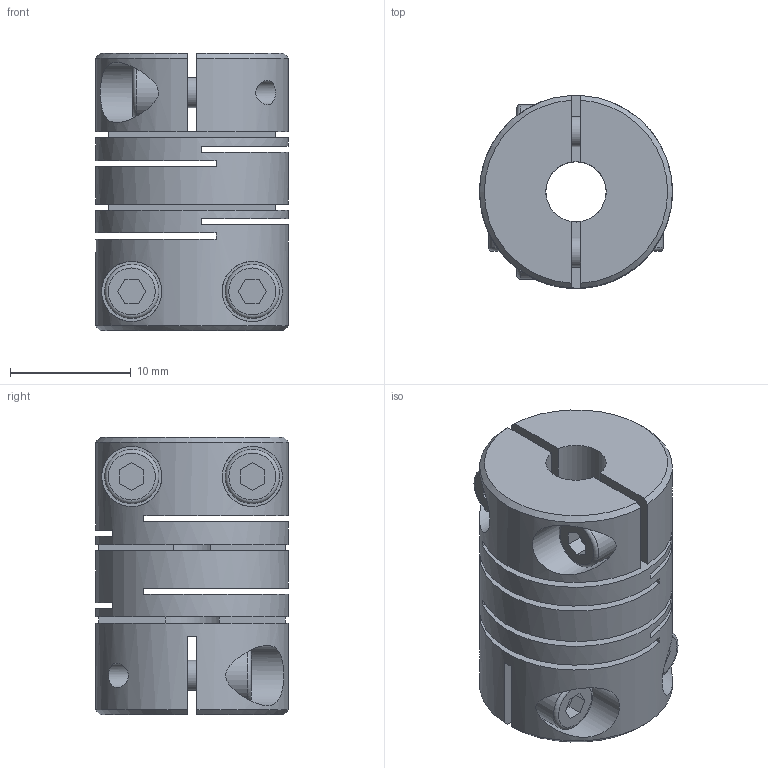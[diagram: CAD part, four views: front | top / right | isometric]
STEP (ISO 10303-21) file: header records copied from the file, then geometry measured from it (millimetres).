
FILE_DESCRIPTION (( 'STEP AP214' ), '1' );
FILE_NAME ('2246-16-B5-6-NI.step', '2022-05-27T09:30:48', ( '' ), ( '' ), 'SwSTEP 2.0', 'SolidWorks 2019', '' );
FILE_SCHEMA (( 'AUTOMOTIVE_DESIGN' ));
Length unit declared in the file: millimetre
Products named in the file (1): 2246-16-B5-6-NI
Bounding box: 16 x 15.99 x 23 mm (x, y, z)
Volume: 3429.9 mm3; surface area: 3977.6 mm2
Topology: 1 solids, 1 shells, 121 faces, 313 edges, 210 vertices
Faces by surface type: plane 83, cylinder 26, cone 8, torus 4
Full cylindrical faces by diameter (mm): 2.01 x4, 2.5 x4, 2.7 x4, 4.5 x4, 5 x5, 6 x2, 16 x1
Entity records: 4330 total; most frequent: CARTESIAN_POINT 950, DIRECTION 562, ORIENTED_EDGE 498, EDGE_CURVE 249, AXIS2_PLACEMENT_3D 207, EDGE_LOOP 194, VERTEX_POINT 183, FACE_OUTER_BOUND 149
